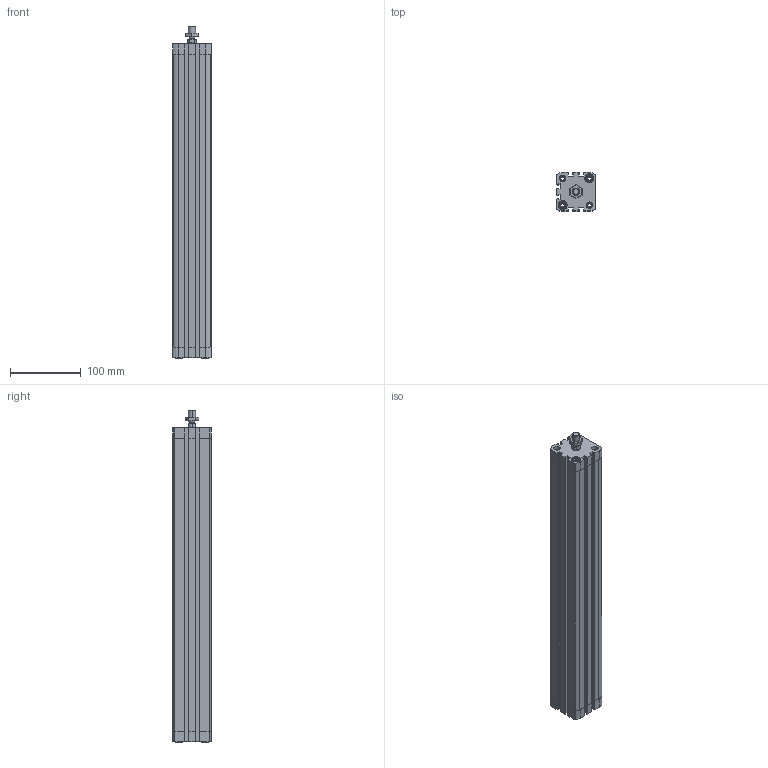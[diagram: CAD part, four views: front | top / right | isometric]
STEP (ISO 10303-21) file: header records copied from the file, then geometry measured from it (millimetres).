
FILE_DESCRIPTION (( 'STEP AP203' ), '1' );
FILE_NAME ('CCN40-400M.STEP', '2017-04-06T12:53:35', ( '' ), ( '' ), 'SwSTEP 2.0', 'SolidWorks 2016', '' );
FILE_SCHEMA (( 'CONFIG_CONTROL_DESIGN' ));
Length unit declared in the file: millimetre
Products named in the file (4): CCN-400----(Z); CCN-400_(KS); _DIN-439-B - M10x1.25(F); CCN40-400M
Assembly tree (3 placements, depth 2):
  CCN40-400M
    CCN-400----(Z)
    CCN-400_(KS)
    _DIN-439-B - M10x1.25(F)
Bounding box: 54.5 x 54.5 x 470.1 mm (x, y, z)
Volume: 693381.6 mm3; surface area: 242606.6 mm2
Topology: 3 solids, 3 shells, 499 faces, 1340 edges, 878 vertices
Faces by surface type: plane 275, cylinder 172, cone 48, bspline 4
Entity records: 16306 total; most frequent: CARTESIAN_POINT 3131, DIRECTION 2732, ORIENTED_EDGE 2680, EDGE_CURVE 1340, AXIS2_PLACEMENT_3D 1003, VERTEX_POINT 878, LINE 726, VECTOR 726
